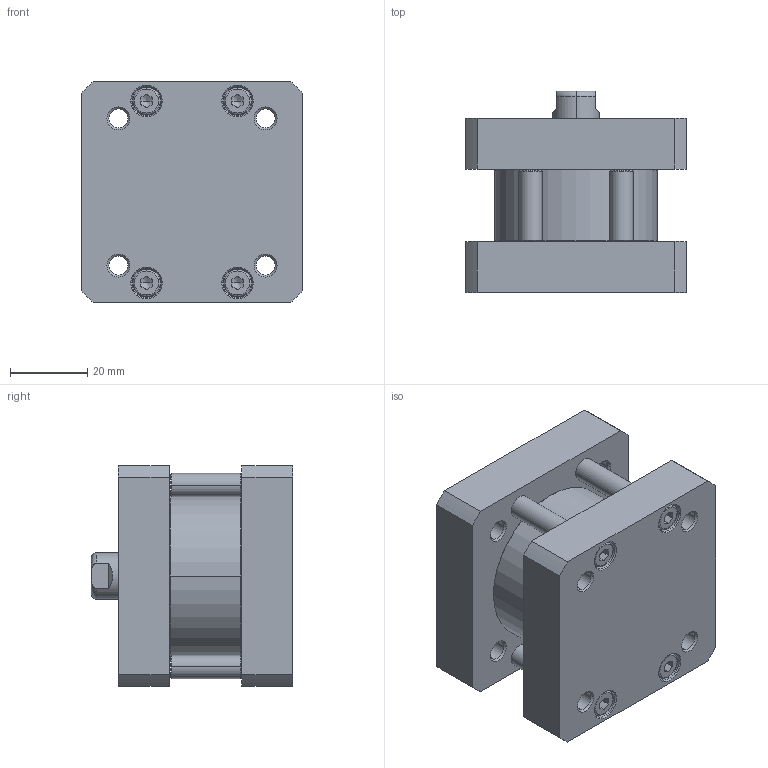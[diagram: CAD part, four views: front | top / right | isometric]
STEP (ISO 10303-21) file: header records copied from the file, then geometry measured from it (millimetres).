
FILE_DESCRIPTION(('STEP AP203'),'1');
FILE_NAME('84M40G000 - course 0mm.stp','2022-05-30T09:17:21',(' '),(' '),'Spatial InterOp 3D',' ',' ');
FILE_SCHEMA(('CONFIG_CONTROL_DESIGN'));
Length unit declared in the file: metre
Products named in the file (6): 84M40G000 - course 0mm; CORPO-000; STELO-000; TA; TIRANTE-000; TP
Assembly tree (8 placements, depth 2):
  84M40G000 - course 0mm
    CORPO-000
    STELO-000
    TA
    TIRANTE-000  x4
    TP
Bounding box: 57 x 52 x 57 mm (x, y, z)
Volume: 85858.7 mm3; surface area: 32324.7 mm2
Topology: 8 solids, 17 shells, 405 faces, 952 edges, 579 vertices
Faces by surface type: cone 162, cylinder 116, plane 103, torus 24
Entity records: 11532 total; most frequent: CARTESIAN_POINT 2661, DIRECTION 1908, ORIENTED_EDGE 1692, EDGE_CURVE 846, AXIS2_PLACEMENT_3D 770, VERTEX_POINT 531, EDGE_LOOP 427, CIRCLE 396
